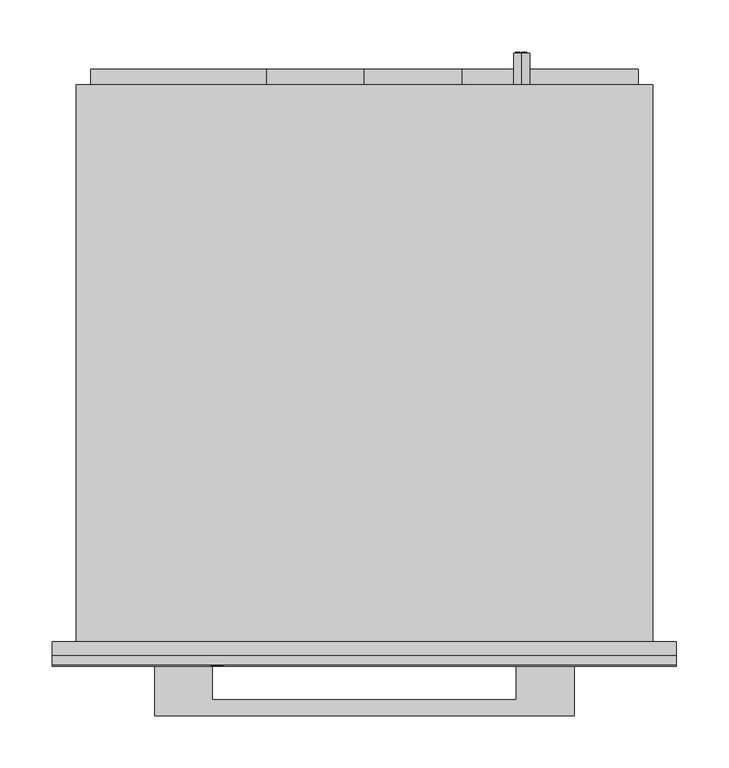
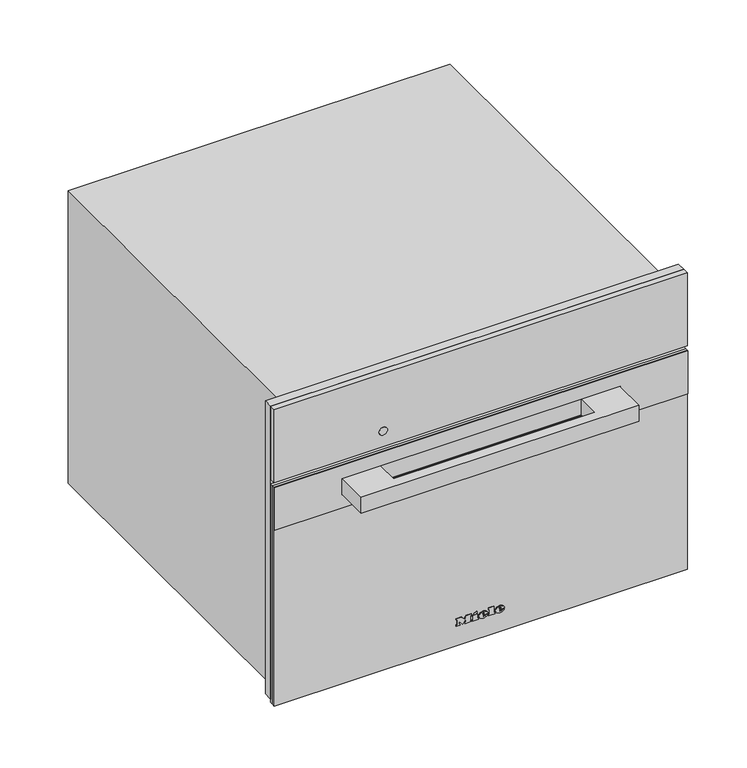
"""IFC4 building model written with IfcOpenShell, lengths in millimetres: proxy geometry, 11106310_D_DG2840_EDST-CLST : 23284040_D_11106310_DG2840_EDST-CLST."""

from ifc_helpers import new_model, si_unit, point, frame, frame_2d, origin, place, context, project, spatial, polyline, circle_curve, ellipse_curve, trimmed, segment, composite_curve, outline, extrude, faceted_brep, source, transform, mapped, element, save
from ifc_brep_helpers import plane_surface, cylinder_surface, revolved_surface, extruded_surface, advanced_brep


def specialty_equipment_27a60789(model_context):
    return source(origin(), model_context, "Body", "SolidModel", [
        extrude(outline(polyline([(455.0, 297.5), (455.0, -297.5), (9.0, -297.5), (9.0, -272.5), (344.0, -272.5), (344.0, 272.5), (9.0, 272.5), (9.0, 297.5), (455.0, 297.5)])), frame((0.0, -13.0, 0.0), z_axis=(0.0, 1.0, 0.0), x_axis=(0.0, 0.0, 1.0)), (0.0, 0.0, 1.0), 13.0),
        advanced_brep(
        [(150.0, 561.0, 410.5), (150.0, 561.0, 395.5), (144.4098301, 561.0, 398.0), (148.5, 561.0, 398.0), (148.5, 561.0, 408.0), (147.4955303, 561.0, 408.0), (147.4955303, 561.0, 399.0), (144.0315043, 561.0, 399.0), (144.0315043, 561.0, 398.4582978), (155.0, 561.0, 398.0), (155.0, 561.0, 408.0), (150.0, 561.0, 408.0), (150.0, 561.0, 407.0), (154.0, 561.0, 407.0), (154.0, 561.0, 403.5), (151.0, 561.0, 403.5), (151.0, 561.0, 402.5), (154.0, 561.0, 402.5), (154.0, 561.0, 399.0), (150.0, 561.0, 399.0), (150.0, 561.0, 398.0), (150.0, 531.0, 395.5), (150.0, 531.0, 410.5), (155.0, 562.0, 408.0), (155.0, 562.0, 398.0), (150.0, 562.0, 398.0), (150.0, 562.0, 399.0), (154.0, 562.0, 399.0), (154.0, 562.0, 402.5), (151.0, 562.0, 402.5), (151.0, 562.0, 403.5), (154.0, 562.0, 403.5), (154.0, 562.0, 407.0), (150.0, 562.0, 407.0), (150.0, 562.0, 408.0), (148.5, 562.0, 398.0), (144.0315043, 562.0, 398.0), (144.0315043, 562.0, 399.0), (147.4955303, 562.0, 399.0), (147.4955303, 562.0, 408.0), (148.5, 562.0, 408.0), (144.0315043, 561.0, 398.0)],
        [
            (0, 1, circle_curve(frame((150.0, 561.0, 403.0), z_axis=(0.0, 1.0, 0.0), x_axis=(0.0, 0.0, 1.0)), 7.5)),
            (1, 2, circle_curve(frame((150.0, 561.0, 403.0), z_axis=(0.0, 1.0, 0.0), x_axis=(0.0, 0.0, 1.0)), 7.5)),
            (2, 3),
            (3, 4),
            (4, 5),
            (5, 6),
            (6, 7),
            (7, 8),
            (8, 0, circle_curve(frame((150.0, 561.0, 403.0), z_axis=(0.0, 1.0, 0.0), x_axis=(0.0, 0.0, 1.0)), 7.5)),
            (9, 10),
            (10, 11),
            (11, 12),
            (12, 13),
            (13, 14),
            (14, 15),
            (15, 16),
            (16, 17),
            (17, 18),
            (18, 19),
            (19, 20),
            (20, 9),
            (21, 22, circle_curve(frame((150.0, 531.0, 403.0), z_axis=(0.0, -1.0, 0.0), x_axis=(0.0, 0.0, 1.0)), 7.5)),
            (22, 21, circle_curve(frame((150.0, 531.0, 403.0), z_axis=(0.0, -1.0, 0.0), x_axis=(0.0, 0.0, 1.0)), 7.5)),
            (0, 22),
            (21, 1),
            (8, 2, circle_curve(frame((150.0, 561.0, 403.0), z_axis=(0.0, -1.0, 0.0), x_axis=(0.0, 0.0, 1.0)), 7.5)),
            (23, 24),
            (24, 25),
            (25, 26),
            (26, 27),
            (27, 28),
            (28, 29),
            (29, 30),
            (30, 31),
            (31, 32),
            (32, 33),
            (33, 34),
            (34, 23),
            (35, 36),
            (36, 37),
            (37, 38),
            (38, 39),
            (39, 40),
            (40, 35),
            (8, 41),
            (41, 2),
            (23, 10),
            (9, 24),
            (20, 25),
            (19, 26),
            (18, 27),
            (17, 28),
            (16, 29),
            (15, 30),
            (14, 31),
            (13, 32),
            (12, 33),
            (11, 34),
            (35, 3),
            (41, 36),
            (7, 37),
            (6, 38),
            (5, 39),
            (4, 40),
        ],
        [
            plane_surface(frame((150.0, 561.0, 410.5), z_axis=(0.0, 1.0, 0.0), x_axis=(1.0, 0.0, 0.0))),
            plane_surface(frame((150.0, 531.0, 410.5), z_axis=(0.0, -1.0, 0.0), x_axis=(-1.0, 0.0, 0.0))),
            cylinder_surface(frame((150.0, 561.0, 403.0), z_axis=(0.0, -1.0, 0.0), x_axis=(0.0, 0.0, 1.0)), 7.5),
            plane_surface(frame((155.0, 562.0, 408.0), z_axis=(0.0, 1.0, 0.0), x_axis=(0.0, 0.0, -1.0))),
            plane_surface(frame((155.0, 561.0, 408.0), z_axis=(0.0, -1.0, 0.0), x_axis=(0.0, 0.0, 1.0))),
            plane_surface(frame((155.0, 562.0, 408.0), z_axis=(1.0, 0.0, 0.0), x_axis=(0.0, -1.0, 0.0))),
            plane_surface(frame((155.0, 562.0, 398.0), z_axis=(0.0, 0.0, -1.0), x_axis=(0.0, -1.0, 0.0))),
            plane_surface(frame((150.0, 562.0, 398.0), z_axis=(-1.0, 0.0, 0.0), x_axis=(0.0, -1.0, 0.0))),
            plane_surface(frame((150.0, 562.0, 399.0), z_axis=(0.0, 0.0, 1.0), x_axis=(0.0, -1.0, 0.0))),
            plane_surface(frame((154.0, 562.0, 399.0), z_axis=(-1.0, 0.0, 0.0), x_axis=(0.0, -1.0, 0.0))),
            plane_surface(frame((154.0, 562.0, 402.5), z_axis=(0.0, 0.0, -1.0), x_axis=(0.0, -1.0, 0.0))),
            plane_surface(frame((151.0, 562.0, 402.5), z_axis=(-1.0, 0.0, 0.0), x_axis=(0.0, -1.0, 0.0))),
            plane_surface(frame((151.0, 562.0, 403.5), z_axis=(0.0, 0.0, 1.0), x_axis=(0.0, -1.0, 0.0))),
            plane_surface(frame((154.0, 562.0, 403.5), z_axis=(-1.0, 0.0, 0.0), x_axis=(0.0, -1.0, 0.0))),
            plane_surface(frame((154.0, 562.0, 407.0), z_axis=(0.0, 0.0, -1.0), x_axis=(0.0, -1.0, 0.0))),
            plane_surface(frame((150.0, 562.0, 407.0), z_axis=(-1.0, 0.0, 0.0), x_axis=(0.0, -1.0, 0.0))),
            plane_surface(frame((150.0, 562.0, 408.0), z_axis=(0.0, 0.0, 1.0), x_axis=(0.0, -1.0, 0.0))),
            plane_surface(frame((148.5, 562.0, 398.0), z_axis=(0.0, 0.0, -1.0), x_axis=(0.0, -1.0, 0.0))),
            plane_surface(frame((144.0315043, 562.0, 398.0), z_axis=(-1.0, 0.0, 0.0), x_axis=(0.0, -1.0, 0.0))),
            plane_surface(frame((144.0315043, 562.0, 399.0), z_axis=(0.0, 0.0, 1.0), x_axis=(0.0, -1.0, 0.0))),
            plane_surface(frame((147.4955303, 562.0, 399.0), z_axis=(-1.0, 0.0, 0.0), x_axis=(0.0, -1.0, 0.0))),
            plane_surface(frame((147.4955303, 562.0, 408.0), z_axis=(0.0, 0.0, 1.0), x_axis=(0.0, -1.0, 0.0))),
            plane_surface(frame((148.5, 562.0, 408.0), z_axis=(1.0, 0.0, 0.0), x_axis=(0.0, -1.0, 0.0))),
        ],
        [
            (0, [[1, 2, 3, 4, 5, 6, 7, 8, 9], [10, 11, 12, 13, 14, 15, 16, 17, 18, 19, 20, 21]]),
            (1, [[22, 23]]),
            (2, [[-1, 24, -22, 25]]),
            (2, [[-23, -24, -9, 26, -2, -25]]),
            (3, [[27, 28, 29, 30, 31, 32, 33, 34, 35, 36, 37, 38]]),
            (3, [[39, 40, 41, 42, 43, 44]]),
            (4, [[45, 46, -26]]),
            (5, [[-27, 47, -10, 48]]),
            (6, [[-28, -48, -21, 49]]),
            (7, [[-29, -49, -20, 50]]),
            (8, [[-30, -50, -19, 51]]),
            (9, [[-31, -51, -18, 52]]),
            (10, [[-32, -52, -17, 53]]),
            (11, [[-33, -53, -16, 54]]),
            (12, [[-34, -54, -15, 55]]),
            (13, [[-35, -55, -14, 56]]),
            (14, [[-36, -56, -13, 57]]),
            (15, [[-37, -57, -12, 58]]),
            (16, [[-38, -58, -11, -47]]),
            (17, [[-39, 59, -3, -46, 60]]),
            (18, [[-40, -60, -45, -8, 61]]),
            (19, [[-41, -61, -7, 62]]),
            (20, [[-42, -62, -6, 63]]),
            (21, [[-43, -63, -5, 64]]),
            (22, [[-44, -64, -4, -59]]),
        ],
    ),
        extrude(outline(polyline([(299.0, -93.0), (258.0, -93.0), (258.0, -261.0), (111.0, -261.0), (111.0, -93.0), (70.0, -93.0), (70.0, 0.0), (70.0, 93.0), (111.0, 93.0), (111.0, 261.0), (258.0, 261.0), (258.0, 93.0), (299.0, 93.0), (299.0, 0.0), (299.0, -93.0)])), frame((0.0, 531.0, 0.0), z_axis=(0.0, 1.0, 0.0), x_axis=(0.0, 0.0, 1.0)), (0.0, 0.0, 1.0), 15.0),
        faceted_brep([(275.0, 531.0, 445.0), (275.0, 531.0, 0.0), (-275.0, 531.0, 0.0), (-275.0, 531.0, 445.0), (275.0, 0.0, 445.0), (-275.0, 0.0, 445.0), (-275.0, 0.0, 0.0), (275.0, 0.0, 0.0), (-272.5, 0.0, 344.0), (272.5, 0.0, 344.0), (272.5, 0.0, 8.0), (-272.5, 0.0, 8.0), (272.5, 34.0, 344.0), (-272.5, 34.0, 344.0), (-272.5, 34.0, 8.0), (272.5, 34.0, 8.0), (161.0, 34.0, 286.0), (161.0, 34.0, 58.0), (-220.0, 34.0, 58.0), (-220.0, 34.0, 286.0), (161.0, 444.0, 286.0), (-220.0, 444.0, 286.0), (-220.0, 444.0, 58.0), (161.0, 444.0, 58.0)], [[[0, 1, 2, 3]], [[4, 5, 6, 7], [8, 9, 10, 11]], [[0, 3, 5, 4]], [[3, 2, 6, 5]], [[2, 1, 7, 6]], [[1, 0, 4, 7]], [[12, 13, 14, 15], [16, 17, 18, 19]], [[13, 12, 9, 8]], [[14, 13, 8, 11]], [[15, 14, 11, 10]], [[12, 15, 10, 9]], [[20, 21, 22, 23]], [[20, 23, 17, 16]], [[23, 22, 18, 17]], [[22, 21, 19, 18]], [[21, 20, 16, 19]]]),
        advanced_brep(
        [(26.2998, -23.0, 36.7018), (26.2998, -23.0, 37.8532), (33.9264, -23.0, 37.8532), (20.6568, -23.0, 37.8532), (23.7918, -23.0, 34.0), (33.7326, -23.0, 36.7018), (30.2898, -23.0, 36.7018), (27.5766, -23.0, 35.425), (26.2998, -23.0, 39.3124), (26.2998, -23.0, 40.555), (28.2492, -23.0, 40.555), (28.2492, -23.0, 39.3124), (26.2998, -22.0, 36.7018), (27.5766, -22.0, 35.425), (30.2898, -22.0, 36.7018), (33.7326, -22.0, 36.7018), (23.7918, -22.0, 34.0), (20.6568, -22.0, 37.8532), (33.9264, -22.0, 37.8532), (26.2998, -22.0, 37.8532), (26.2998, -22.0, 39.3124), (28.2492, -22.0, 39.3124), (28.2492, -22.0, 40.555), (26.2998, -22.0, 40.555)],
        [
            (0, 1),
            (1, 2),
            (2, 3, ellipse_curve(frame((27.2916, -23.0, 37.8532), z_axis=(0.0, -1.0, 0.0), x_axis=(-1.0, 0.0, 0.0)), 6.6348, 5.4834)),
            (3, 4, circle_curve(frame((25.0686622, -23.0, 38.2408), z_axis=(0.0, -1.0, 0.0), x_axis=(0.0, 0.0, -1.0)), 4.4288556)),
            (4, 5, circle_curve(frame((27.1587808, -23.0, 41.2504), z_axis=(0.0, -1.0, 0.0), x_axis=(0.0, 0.0, -1.0)), 7.9940516)),
            (5, 6),
            (6, 7, circle_curve(frame((28.1338588, -23.0, 37.762), z_axis=(0.0, 1.0, 0.0), x_axis=(0.0, 0.0, -1.0)), 2.4025208)),
            (7, 0, circle_curve(frame((27.5766, -23.0, 36.7018), z_axis=(0.0, 1.0, 0.0), x_axis=(0.0, 0.0, -1.0)), 1.2768)),
            (8, 9),
            (9, 10, circle_curve(frame((27.2745, -23.0, 40.555), z_axis=(0.0, 1.0, 0.0), x_axis=(0.0, 0.0, -1.0)), 0.9747)),
            (10, 11),
            (11, 8),
            (12, 13, circle_curve(frame((27.5766, -22.0, 36.7018), z_axis=(0.0, -1.0, 0.0), x_axis=(0.0, 0.0, -1.0)), 1.2768)),
            (13, 14, circle_curve(frame((28.1338588, -22.0, 37.762), z_axis=(0.0, -1.0, 0.0), x_axis=(0.0, 0.0, -1.0)), 2.4025208)),
            (14, 15),
            (15, 16, circle_curve(frame((27.1587808, -22.0, 41.2504), z_axis=(0.0, 1.0, 0.0), x_axis=(0.0, 0.0, -1.0)), 7.9940516)),
            (16, 17, circle_curve(frame((25.0686622, -22.0, 38.2408), z_axis=(0.0, 1.0, 0.0), x_axis=(0.0, 0.0, -1.0)), 4.4288556)),
            (17, 18, ellipse_curve(frame((27.2916, -22.0, 37.8532), z_axis=(0.0, 1.0, 0.0), x_axis=(-1.0, 0.0, 0.0)), 6.6348, 5.4834)),
            (18, 19),
            (19, 12),
            (20, 21),
            (21, 22),
            (22, 23, circle_curve(frame((27.2745, -22.0, 40.555), z_axis=(0.0, -1.0, 0.0), x_axis=(0.0, 0.0, -1.0)), 0.9747)),
            (23, 20),
            (0, 12),
            (19, 1),
            (18, 2),
            (5, 15),
            (14, 6),
            (17, 3),
            (13, 7),
            (16, 4),
            (8, 20),
            (23, 9),
            (22, 10),
            (21, 11),
        ],
        [
            plane_surface(frame((26.2998, -23.0, 37.8532), z_axis=(0.0, -1.0, 0.0), x_axis=(0.0, 0.0, 1.0))),
            plane_surface(frame((26.2998, -22.0, 37.8532), z_axis=(0.0, 1.0, 0.0), x_axis=(0.0, 0.0, -1.0))),
            plane_surface(frame((26.2998, -23.0, 36.7018), z_axis=(1.0, 0.0, 0.0), x_axis=(0.0, 1.0, 0.0))),
            plane_surface(frame((26.2998, -23.0, 37.8532), z_axis=(0.0, 0.0, -1.0), x_axis=(0.0, 1.0, 0.0))),
            plane_surface(frame((33.7326, -23.0, 36.7018), z_axis=(0.0, 0.0, 1.0), x_axis=(0.0, 1.0, 0.0))),
            extruded_surface(trimmed(ellipse_curve(frame((27.2916, -21.0, 37.8532), z_axis=(0.0, -1.0, 0.0), x_axis=(-1.0, 0.0, 0.0)), 6.6348, 5.4834), [point((33.9264, -21.0, 37.8532))], [point((20.6568, -21.0, 37.8532))], True, "CARTESIAN"), (0.0, -1.0, 0.0), 1.0),
            revolved_surface(polyline([(28.1338588, -22.0, 35.3594792), (28.1338588, -23.0, 35.3594792)]), (28.1338588, -22.0, 37.762), (0.0, 1.0, 0.0)),
            revolved_surface(polyline([(27.5766, -22.0, 35.425), (27.5766, -23.0, 35.425)]), (27.5766, -22.0, 36.7018), (0.0, 1.0, 0.0)),
            cylinder_surface(frame((25.0686622, -22.0, 38.2408), z_axis=(0.0, -1.0, 0.0), x_axis=(0.0, 0.0, -1.0)), 4.4288556),
            cylinder_surface(frame((27.1587808, -22.0, 41.2504), z_axis=(0.0, -1.0, 0.0), x_axis=(0.0, 0.0, -1.0)), 7.9940516),
            plane_surface(frame((26.2998, -23.0, 39.3124), z_axis=(1.0, 0.0, 0.0), x_axis=(0.0, 1.0, 0.0))),
            revolved_surface(polyline([(27.2745, -22.0, 39.5803), (27.2745, -23.0, 39.5803)]), (27.2745, -22.0, 40.555), (0.0, 1.0, 0.0)),
            plane_surface(frame((28.2492, -23.0, 40.555), z_axis=(-1.0, 0.0, 0.0), x_axis=(0.0, 1.0, 0.0))),
            plane_surface(frame((28.2492, -23.0, 39.3124), z_axis=(0.0, 0.0, 1.0), x_axis=(0.0, 1.0, 0.0))),
        ],
        [
            (0, [[1, 2, 3, 4, 5, 6, 7, 8], [9, 10, 11, 12]]),
            (1, [[13, 14, 15, 16, 17, 18, 19, 20], [21, 22, 23, 24]]),
            (2, [[-1, 25, -20, 26]]),
            (3, [[-2, -26, -19, 27]]),
            (4, [[-6, 28, -15, 29]]),
            (5, [[-3, -27, -18, 30]]),
            (6, [[-7, -29, -14, 31]]),
            (7, [[-8, -31, -13, -25]]),
            (8, [[-4, -30, -17, 32]]),
            (9, [[-5, -32, -16, -28]]),
            (10, [[-9, 33, -24, 34]]),
            (11, [[-10, -34, -23, 35]]),
            (12, [[-11, -35, -22, 36]]),
            (13, [[-12, -36, -21, -33]]),
        ],
    ),
        advanced_brep(
        [(2.508, -23.0, 36.7018), (2.508, -23.0, 37.8532), (10.1346, -23.0, 37.8532), (-3.135, -23.0, 37.8532), (0.0, -23.0, 34.0), (9.9408, -23.0, 36.7018), (6.498, -23.0, 36.7018), (3.7848, -23.0, 35.425), (2.508, -23.0, 39.3124), (2.508, -23.0, 40.555), (4.4574, -23.0, 40.555), (4.4574, -23.0, 39.3124), (2.508, -22.0, 36.7018), (3.7848, -22.0, 35.425), (6.498, -22.0, 36.7018), (9.9408, -22.0, 36.7018), (0.0, -22.0, 34.0), (-3.135, -22.0, 37.8532), (10.1346, -22.0, 37.8532), (2.508, -22.0, 37.8532), (2.508, -22.0, 39.3124), (4.4574, -22.0, 39.3124), (4.4574, -22.0, 40.555), (2.508, -22.0, 40.555)],
        [
            (0, 1),
            (1, 2),
            (2, 3, ellipse_curve(frame((3.4998, -23.0, 37.8532), z_axis=(0.0, -1.0, 0.0), x_axis=(-1.0, 0.0, 0.0)), 6.6348, 5.4834)),
            (3, 4, circle_curve(frame((1.2768622, -23.0, 38.2408), z_axis=(0.0, -1.0, 0.0), x_axis=(0.0, 0.0, -1.0)), 4.4288556)),
            (4, 5, circle_curve(frame((3.3669808, -23.0, 41.2504), z_axis=(0.0, -1.0, 0.0), x_axis=(0.0, 0.0, -1.0)), 7.9940516)),
            (5, 6),
            (6, 7, circle_curve(frame((4.3420588, -23.0, 37.762), z_axis=(0.0, 1.0, 0.0), x_axis=(0.0, 0.0, -1.0)), 2.4025208)),
            (7, 0, circle_curve(frame((3.7848, -23.0, 36.7018), z_axis=(0.0, 1.0, 0.0), x_axis=(0.0, 0.0, -1.0)), 1.2768)),
            (8, 9),
            (9, 10, circle_curve(frame((3.4827, -23.0, 40.555), z_axis=(0.0, 1.0, 0.0), x_axis=(0.0, 0.0, -1.0)), 0.9747)),
            (10, 11),
            (11, 8),
            (12, 13, circle_curve(frame((3.7848, -22.0, 36.7018), z_axis=(0.0, -1.0, 0.0), x_axis=(0.0, 0.0, -1.0)), 1.2768)),
            (13, 14, circle_curve(frame((4.3420588, -22.0, 37.762), z_axis=(0.0, -1.0, 0.0), x_axis=(0.0, 0.0, -1.0)), 2.4025208)),
            (14, 15),
            (15, 16, circle_curve(frame((3.3669808, -22.0, 41.2504), z_axis=(0.0, 1.0, 0.0), x_axis=(0.0, 0.0, -1.0)), 7.9940516)),
            (16, 17, circle_curve(frame((1.2768622, -22.0, 38.2408), z_axis=(0.0, 1.0, 0.0), x_axis=(0.0, 0.0, -1.0)), 4.4288556)),
            (17, 18, ellipse_curve(frame((3.4998, -22.0, 37.8532), z_axis=(0.0, 1.0, 0.0), x_axis=(-1.0, 0.0, 0.0)), 6.6348, 5.4834)),
            (18, 19),
            (19, 12),
            (20, 21),
            (21, 22),
            (22, 23, circle_curve(frame((3.4827, -22.0, 40.555), z_axis=(0.0, -1.0, 0.0), x_axis=(0.0, 0.0, -1.0)), 0.9747)),
            (23, 20),
            (0, 12),
            (19, 1),
            (18, 2),
            (5, 15),
            (14, 6),
            (17, 3),
            (13, 7),
            (16, 4),
            (8, 20),
            (23, 9),
            (22, 10),
            (21, 11),
        ],
        [
            plane_surface(frame((2.508, -23.0, 37.8532), z_axis=(0.0, -1.0, 0.0), x_axis=(0.0, 0.0, 1.0))),
            plane_surface(frame((2.508, -22.0, 37.8532), z_axis=(0.0, 1.0, 0.0), x_axis=(0.0, 0.0, -1.0))),
            plane_surface(frame((2.508, -23.0, 36.7018), z_axis=(1.0, 0.0, 0.0), x_axis=(0.0, 1.0, 0.0))),
            plane_surface(frame((2.508, -23.0, 37.8532), z_axis=(0.0, 0.0, -1.0), x_axis=(0.0, 1.0, 0.0))),
            plane_surface(frame((9.9408, -23.0, 36.7018), z_axis=(0.0, 0.0, 1.0), x_axis=(0.0, 1.0, 0.0))),
            extruded_surface(trimmed(ellipse_curve(frame((3.4998, -21.0, 37.8532), z_axis=(0.0, -1.0, 0.0), x_axis=(-1.0, 0.0, 0.0)), 6.6348, 5.4834), [point((10.1346, -21.0, 37.8532))], [point((-3.135, -21.0, 37.8532))], True, "CARTESIAN"), (0.0, -1.0, 0.0), 1.0),
            revolved_surface(polyline([(4.3420588, -22.0, 35.3594792), (4.3420588, -23.0, 35.3594792)]), (4.3420588, -22.0, 37.762), (0.0, 1.0, 0.0)),
            revolved_surface(polyline([(3.7848, -22.0, 35.425), (3.7848, -23.0, 35.425)]), (3.7848, -22.0, 36.7018), (0.0, 1.0, 0.0)),
            cylinder_surface(frame((1.2768622, -22.0, 38.2408), z_axis=(0.0, -1.0, 0.0), x_axis=(0.0, 0.0, -1.0)), 4.4288556),
            cylinder_surface(frame((3.3669808, -22.0, 41.2504), z_axis=(0.0, -1.0, 0.0), x_axis=(0.0, 0.0, -1.0)), 7.9940516),
            plane_surface(frame((2.508, -23.0, 39.3124), z_axis=(1.0, 0.0, 0.0), x_axis=(0.0, 1.0, 0.0))),
            revolved_surface(polyline([(3.4827, -22.0, 39.5803), (3.4827, -23.0, 39.5803)]), (3.4827, -22.0, 40.555), (0.0, 1.0, 0.0)),
            plane_surface(frame((4.4574, -23.0, 40.555), z_axis=(-1.0, 0.0, 0.0), x_axis=(0.0, 1.0, 0.0))),
            plane_surface(frame((4.4574, -23.0, 39.3124), z_axis=(0.0, 0.0, 1.0), x_axis=(0.0, 1.0, 0.0))),
        ],
        [
            (0, [[1, 2, 3, 4, 5, 6, 7, 8], [9, 10, 11, 12]]),
            (1, [[13, 14, 15, 16, 17, 18, 19, 20], [21, 22, 23, 24]]),
            (2, [[-1, 25, -20, 26]]),
            (3, [[-2, -26, -19, 27]]),
            (4, [[-6, 28, -15, 29]]),
            (5, [[-3, -27, -18, 30]]),
            (6, [[-7, -29, -14, 31]]),
            (7, [[-8, -31, -13, -25]]),
            (8, [[-4, -30, -17, 32]]),
            (9, [[-5, -32, -16, -28]]),
            (10, [[-9, 33, -24, 34]]),
            (11, [[-10, -34, -23, 35]]),
            (12, [[-11, -35, -22, 36]]),
            (13, [[-12, -36, -21, -33]]),
        ],
    ),
        extrude(outline(polyline([(44.7274, -9.9522), (42.8806, -9.0858), (44.6818, -5.2212), (46.5286, -6.0762), (44.7274, -9.9522)])), frame((0.0, -23.0, 0.0), z_axis=(0.0, 1.0, 0.0), x_axis=(0.0, 0.0, 1.0)), (0.0, 0.0, 1.0), 1.0),
        extrude(outline(polyline([(42.6298, -12.768), (40.5892, -12.768), (40.5892, -11.4114), (35.9152, -11.4114), (35.9152, -12.768), (34.0, -12.768), (34.0, -3.7734), (35.9152, -3.7734), (35.9152, -5.0958), (42.6298, -5.0958), (42.6298, -12.768)])), frame((0.0, -23.0, 0.0), z_axis=(0.0, 1.0, 0.0), x_axis=(0.0, 0.0, 1.0)), (0.0, 0.0, 1.0), 1.0),
        extrude(outline(polyline([(43.5418, 10.773), (43.5418, 12.141), (35.9152, 12.141), (35.9152, 10.773), (34.0, 10.773), (34.0, 20.0184), (35.9152, 20.0184), (35.9152, 18.6162), (45.4, 18.6162), (45.4, 10.773), (43.5418, 10.773)])), frame((0.0, -23.0, 0.0), z_axis=(0.0, 1.0, 0.0), x_axis=(0.0, 0.0, 1.0)), (0.0, 0.0, 1.0), 1.0),
        extrude(outline(polyline([(43.5418, -35.4882), (43.5418, -34.1088), (35.9152, -34.1088), (35.9152, -35.4882), (34.0, -35.4882), (34.0, -30.4722), (35.9152, -30.4722), (35.9152, -31.8402), (40.7429247, -31.8402), (34.0, -26.7444), (40.9402223, -21.6258), (35.9152, -21.6258), (35.9152, -23.028), (34.0, -23.028), (34.0, -13.9308), (35.9152, -13.9308), (35.9152, -15.3786), (43.5418, -15.3786), (43.5418, -13.9308), (45.4, -13.9308), (45.4, -20.8734), (41.125, -24.2022), (45.4, -27.5424), (45.4, -35.4882), (43.5418, -35.4882)])), frame((0.0, -23.0, 0.0), z_axis=(0.0, 1.0, 0.0), x_axis=(0.0, 0.0, 1.0)), (0.0, 0.0, 1.0), 1.0),
        extrude(outline(polyline([(297.5, -22.0), (-297.5, -22.0), (-297.5, -13.0), (297.5, -13.0), (297.5, -22.0)])), frame((0.0, 0.0, 344.0), z_axis=(0.0, 0.0, 1.0), x_axis=(1.0, 0.0, 0.0)), (0.0, 0.0, 1.0), 111.0),
        extrude(outline(composite_curve([segment(trimmed(circle_curve(frame_2d((367.7, -140.5745637)), 6.0), [point((367.7, -146.5745637))], [point((367.7, -134.5745637))], False, "CARTESIAN"), True, "CONTINUOUS"), segment(trimmed(circle_curve(frame_2d((367.7, -140.5745637)), 6.0), [point((367.7, -134.5745637))], [point((367.7, -146.5745637))], False, "CARTESIAN"), True, "CONTINUOUS")], self_intersect=False)), frame((0.0, -22.5, 0.0), z_axis=(0.0, 1.0, 0.0), x_axis=(0.0, 0.0, 1.0)), (0.0, 0.0, 1.0), 1.0),
        extrude(outline(polyline([(337.0, 297.5), (337.0, -297.5), (272.0, -297.5), (272.0, 297.5), (337.0, 297.5)]), holes=[polyline([(317.0, -200.5), (317.0, 200.5), (292.0, 200.5), (292.0, -200.5), (317.0, -200.5)])]), frame((0.0, -23.3, 0.0), z_axis=(0.0, 1.0, 0.0), x_axis=(0.0, 0.0, 1.0)), (0.0, 0.0, 1.0), 1.3),
        extrude(outline(polyline([(-200.0, -70.3), (-200.0, -22.0), (-145.0, -22.0), (-145.0, -55.3), (145.0, -55.3), (145.0, -22.0), (200.0, -22.0), (200.0, -70.3), (-200.0, -70.3)])), frame((0.0, 0.0, 292.5), z_axis=(0.0, 0.0, 1.0), x_axis=(1.0, 0.0, 0.0)), (0.0, 0.0, 1.0), 24.0),
        extrude(outline(polyline([(-297.5, -18.0), (297.5, -18.0), (297.5, -22.0), (-297.5, -22.0), (-297.5, -18.0)])), frame((0.0, 0.0, 4.0), z_axis=(0.0, 0.0, 1.0), x_axis=(1.0, 0.0, 0.0)), (0.0, 0.0, 1.0), 333.0),
        extrude(outline(polyline([(297.5, -18.0), (-297.5, -18.0), (-297.5, -13.0), (297.5, -13.0), (297.5, -18.0)])), frame((0.0, 0.0, 4.0), z_axis=(0.0, 0.0, 1.0), x_axis=(1.0, 0.0, 0.0)), (0.0, 0.0, 1.0), 333.0),
    ])


if __name__ == "__main__":
    model = new_model("IFC4")
    model_context = context("Model", 3, world=origin())
    ifc_project = project(units=[si_unit("LENGTHUNIT", "METRE", prefix="MILLI")], contexts=[model_context])
    site = spatial("IfcSite", under=ifc_project)
    building = spatial("IfcBuilding", under=site)
    placement = place(None, origin())
    specialty_equipment_shape = specialty_equipment_27a60789(model_context)
    element("IfcBuildingElementProxy", 1, Name="11106310_D_DG2840_EDST-CLST : 23284040_D_11106310_DG2840_EDST-CLST", ObjectType="11106310_D_DG2840_EDST-CLST : 23284040_D_11106310_DG2840_EDST-CLST", at=placement, inside=building, context=model_context, shape_type="MappedRepresentation", body=[
        mapped(specialty_equipment_shape, transform((0.0, 0.0, 0.0), x_axis=(1.0, 0.0, 0.0), y_axis=(0.0, 1.0, 0.0), z_axis=(0.0, 0.0, 1.0))),
    ])
    save(model, "model.ifc")
